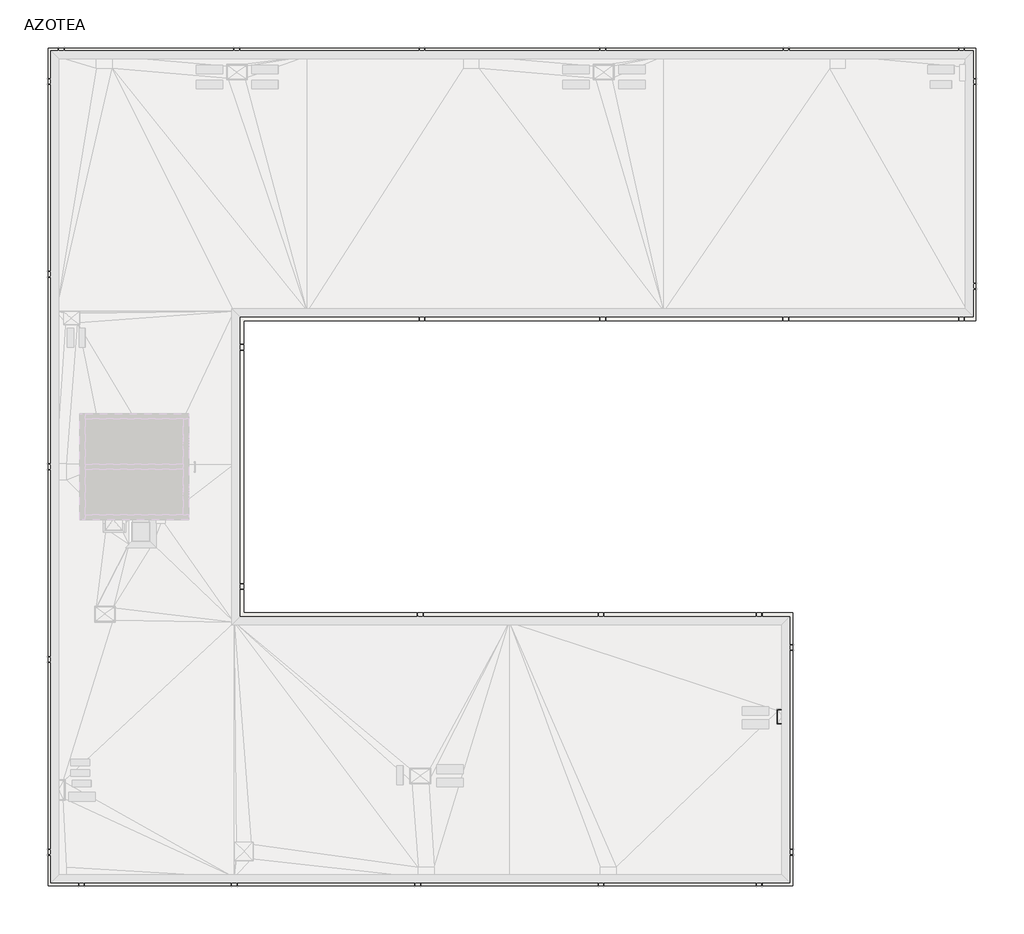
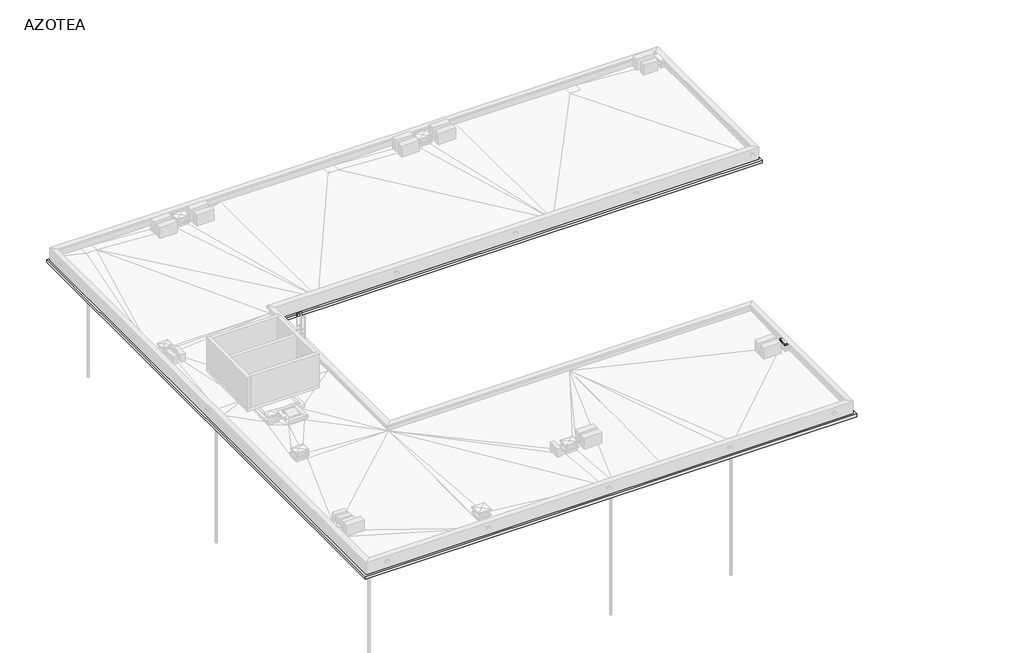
# One storey, part 2 of 6: 1 proxy, 1 slab.
"""IFC4 building model written with IfcOpenShell, lengths in millimetres."""

from ifc_helpers import new_model, si_unit, frame, origin, place, context, project, spatial, polyline, circle_curve, faceted_brep, element, save
from ifc_brep_helpers import plane_surface, revolved_surface, advanced_brep

model = new_model("IFC4")

# Units and contexts
model_context = context("Model", 3, world=origin())
ifc_project = project(units=[si_unit("LENGTHUNIT", "METRE", prefix="MILLI")], contexts=[model_context])

# Site, building, storey
site = spatial("IfcSite", under=ifc_project)
building = spatial("IfcBuilding", under=site)
storey = spatial("IfcBuildingStorey", under=building, Name="AZOTEA", Elevation=6570.0)

# Proxy
placement = place(None, origin())
element("IfcBuildingElementProxy", 1, Name="Goterón", ObjectType="Goterón", at=placement, inside=storey, context=model_context, shape_type="Brep", body=[
    faceted_brep([(30688.7173693, 6830.2304035, 7280.0), (30688.7173693, 6820.2304035, 7280.0), (30688.7173693, 6820.2304035, 7210.0), (30688.7173693, 6820.2304035, 7200.0), (30688.7173693, 6830.2304035, 7200.0), (30526.2173693, 6830.2304035, 7280.0), (30536.2173693, 6820.2304035, 7280.0), (30536.2173693, 6820.2304035, 7210.0), (30536.2173693, 6820.2304035, 7200.0), (30526.2173693, 6830.2304035, 7200.0), (30526.2173693, 6310.2304035, 7280.0), (30536.2173693, 6320.2304035, 7280.0), (30536.2173693, 6320.2304035, 7210.0), (30536.2173693, 6320.2304035, 7200.0), (30526.2173693, 6310.2304035, 7200.0), (30688.7173693, 6320.2304035, 7280.0), (30688.7173693, 6310.2304035, 7280.0), (30688.7173693, 6310.2304035, 7200.0), (30688.7173693, 6320.2304035, 7200.0), (30688.7173693, 6320.2304035, 7210.0)], [[[0, 1, 2, 3, 4]], [[1, 0, 5, 6]], [[1, 6, 7, 8, 3, 2]], [[4, 3, 8, 9]], [[0, 4, 9, 5]], [[6, 5, 10, 11]], [[6, 11, 12, 13, 8, 7]], [[9, 8, 13, 14]], [[5, 9, 14, 10]], [[15, 16, 17, 18, 19]], [[11, 10, 16, 15]], [[11, 15, 19, 18, 13, 12]], [[14, 13, 18, 17]], [[10, 14, 17, 16]]]),
])

# Slab
element("IfcSlab", 2, ObjectType="LOSA-INT-HA-16cm-PET", at=placement, inside=storey, context=model_context, shape_type="SolidModel", body=[
    faceted_brep([(3078.7173694, 31730.2304035, 6410.0), (37998.7173693, 31730.2304035, 6410.0), (37998.7173693, 21470.2304035, 6410.0), (10438.7173687, 21470.2304035, 6410.0), (10438.7173687, 10470.2304035, 6410.0), (31098.7173693, 10470.2304035, 6410.0), (31098.7173693, 210.2304035, 6410.0), (3078.7173694, 210.2304035, 6410.0), (37888.7173693, 31620.2304035, 6410.0), (3188.7173693, 31620.2304035, 6410.0), (3188.7173693, 320.2304035, 6410.0), (30988.7173693, 320.2304035, 6410.0), (30988.7173693, 10320.2304035, 6410.0), (10288.7173693, 10320.2304035, 6410.0), (10288.7173693, 21620.2304035, 6410.0), (37888.7173693, 21620.2304035, 6410.0), (37998.7173693, 31730.2304035, 6570.0), (3078.7173694, 31730.2304035, 6570.0), (3078.7173694, 210.2304035, 6570.0), (31098.7173693, 210.2304035, 6570.0), (31098.7173693, 10470.2304035, 6570.0), (10438.7173687, 10470.2304035, 6570.0), (10438.7173687, 21470.2304035, 6570.0), (37998.7173693, 21470.2304035, 6570.0), (3188.7173693, 31620.2304035, 6570.0), (37888.7173693, 31620.2304035, 6570.0), (37888.7173693, 21620.2304035, 6570.0), (10288.7173693, 21620.2304035, 6570.0), (10288.7173693, 10320.2304035, 6570.0), (30988.7173693, 10320.2304035, 6570.0), (30988.7173693, 320.2304035, 6570.0), (3188.7173693, 320.2304035, 6570.0)], [[[0, 1, 2, 3, 4, 5, 6, 7], [8, 9, 10, 11, 12, 13, 14, 15]], [[16, 17, 18, 19, 20, 21, 22, 23], [24, 25, 26, 27, 28, 29, 30, 31]], [[1, 0, 17, 16]], [[2, 1, 16, 23]], [[3, 2, 23, 22]], [[4, 3, 22, 21]], [[5, 4, 21, 20]], [[6, 5, 20, 19]], [[7, 6, 19, 18]], [[0, 7, 18, 17]], [[9, 8, 25, 24]], [[10, 9, 24, 31]], [[11, 10, 31, 30]], [[12, 11, 30, 29]], [[13, 12, 29, 28]], [[14, 13, 28, 27]], [[15, 14, 27, 26]], [[8, 15, 26, 25]]]),
    faceted_brep([(6124.4126343, 13970.2304035, 6410.0), (6124.4126343, 13050.2304035, 6410.0), (7024.4126343, 13050.2304035, 6410.0), (7024.4126343, 13970.2304035, 6410.0), (7168.7173693, 13970.2304035, 6410.0), (7168.7173693, 10320.2304035, 6410.0), (5538.7212045, 10320.2304035, 6410.0), (5538.7212045, 10660.2304035, 6410.0), (4898.7212045, 10660.2304035, 6410.0), (4898.7212045, 10320.2304035, 6410.0), (3388.7173693, 10320.2304035, 6410.0), (3388.7173693, 15870.2304035, 6410.0), (5268.7173693, 15870.2304035, 6410.0), (5268.7173693, 14170.2304035, 6410.0), (5268.7173694, 13970.2304035, 6410.0), (5268.7173694, 13620.2304035, 6410.0), (5838.7173694, 13620.2304035, 6410.0), (5838.7173694, 13970.2304035, 6410.0), (6124.4126343, 13050.2304035, 6570.0), (6124.4126343, 13970.2304035, 6570.0), (5838.7173694, 13970.2304035, 6570.0), (5838.7173694, 13620.2304035, 6570.0), (5268.7173694, 13620.2304035, 6570.0), (5268.7173694, 13970.2304035, 6570.0), (5268.7173693, 15870.2304035, 6570.0), (3388.7173693, 15870.2304035, 6570.0), (3388.7173693, 10320.2304035, 6570.0), (4898.7212045, 10320.2304035, 6570.0), (4898.7212045, 10660.2304035, 6570.0), (5538.7212045, 10660.2304035, 6570.0), (5538.7212045, 10320.2304035, 6570.0), (7168.7173693, 10320.2304035, 6570.0), (7168.7173693, 13970.2304035, 6570.0), (7024.4126343, 13970.2304035, 6570.0), (7024.4126343, 13050.2304035, 6570.0)], [[[0, 1, 2, 3, 4, 5, 6, 7, 8, 9, 10, 11, 12, 13, 14, 15, 16, 17]], [[18, 19, 20, 21, 22, 23, 24, 25, 26, 27, 28, 29, 30, 31, 32, 33, 34]], [[1, 0, 19, 18]], [[2, 1, 18, 34]], [[3, 2, 34, 33]], [[4, 3, 33, 32]], [[5, 4, 32, 31]], [[10, 9, 27, 26]], [[11, 10, 26, 25]], [[12, 11, 25, 24]], [[14, 13, 12, 24, 23]], [[0, 17, 20, 19]], [[15, 14, 23, 22]], [[16, 15, 22, 21]], [[17, 16, 21, 20]], [[6, 5, 31, 30]], [[7, 6, 30, 29]], [[8, 7, 29, 28]], [[9, 8, 28, 27]]]),
    faceted_brep([(10508.7173694, 31040.2304035, 6410.0), (10288.7173694, 31040.2304035, 6410.0), (10288.7173694, 31420.2304035, 6410.0), (10288.7173694, 31430.2304035, 6410.0), (16988.7173694, 31430.2304035, 6410.0), (16988.7173694, 31420.2304035, 6410.0), (16988.7173694, 24920.2304035, 6410.0), (10288.7173694, 24920.2304035, 6410.0), (10288.7173694, 30600.2304035, 6410.0), (10508.7173694, 30600.2304035, 6410.0), (10288.7173694, 31040.2304035, 6570.0), (10508.7173694, 31040.2304035, 6570.0), (10508.7173694, 30600.2304035, 6570.0), (10288.7173694, 30600.2304035, 6570.0), (10288.7173694, 24920.2304035, 6570.0), (16988.7173694, 24920.2304035, 6570.0), (16988.7173694, 31420.2304035, 6570.0), (16988.7173694, 31430.2304035, 6570.0), (10288.7173694, 31430.2304035, 6570.0), (10288.7173694, 31420.2304035, 6570.0)], [[[0, 1, 2, 3, 4, 5, 6, 7, 8, 9]], [[10, 11, 12, 13, 14, 15, 16, 17, 18, 19]], [[1, 0, 11, 10]], [[9, 8, 13, 12]], [[0, 9, 12, 11]], [[3, 2, 1, 10, 19, 18]], [[4, 3, 18, 17]], [[6, 5, 4, 17, 16, 15]], [[7, 6, 15, 14]], [[8, 7, 14, 13]]]),
    advanced_brep(
    [(10088.7173694, 31040.2304035, 6410.0), (9868.7173694, 31040.2304035, 6410.0), (9868.7173694, 30600.2304035, 6410.0), (10088.7173693, 30600.2304035, 6410.0), (10088.7173693, 24920.2304035, 6410.0), (3388.7173693, 24920.2304035, 6410.0), (3388.7173693, 31420.2304035, 6410.0), (3388.7173693, 31430.2304035, 6410.0), (10088.7173694, 31430.2304035, 6410.0), (10088.7173694, 31420.2304035, 6410.0), (5138.7173693, 31270.2304035, 6410.0), (5238.7173693, 31270.2304035, 6410.0), (9868.7173694, 31040.2304035, 6570.0), (10088.7173694, 31040.2304035, 6570.0), (10088.7173694, 31420.2304035, 6570.0), (10088.7173694, 31430.2304035, 6570.0), (3388.7173693, 31430.2304035, 6570.0), (3388.7173693, 31420.2304035, 6570.0), (3388.7173693, 24920.2304035, 6570.0), (10088.7173693, 24920.2304035, 6570.0), (10088.7173693, 30600.2304035, 6570.0), (9868.7173694, 30600.2304035, 6570.0), (5238.7173693, 31270.2304035, 6570.0), (5138.7173693, 31270.2304035, 6570.0)],
    [
        (0, 1),
        (1, 2),
        (2, 3),
        (3, 4),
        (4, 5),
        (5, 6),
        (6, 7),
        (7, 8),
        (8, 9),
        (9, 0),
        (10, 11, circle_curve(frame((5188.7173693, 31270.2304035, 6410.0), z_axis=(0.0, 0.0, 1.0), x_axis=(1.0, 0.0, 0.0)), 50.0)),
        (11, 10, circle_curve(frame((5188.7173693, 31270.2304035, 6410.0), z_axis=(0.0, 0.0, 1.0), x_axis=(1.0, 0.0, 0.0)), 50.0)),
        (12, 13),
        (13, 14),
        (14, 15),
        (15, 16),
        (16, 17),
        (17, 18),
        (18, 19),
        (19, 20),
        (20, 21),
        (21, 12),
        (22, 23, circle_curve(frame((5188.7173693, 31270.2304035, 6570.0), z_axis=(0.0, 0.0, -1.0), x_axis=(1.0, 0.0, 0.0)), 50.0)),
        (23, 22, circle_curve(frame((5188.7173693, 31270.2304035, 6570.0), z_axis=(0.0, 0.0, -1.0), x_axis=(1.0, 0.0, 0.0)), 50.0)),
        (0, 13),
        (12, 1),
        (21, 2),
        (20, 3),
        (10, 23),
        (22, 11),
        (19, 4),
        (18, 5),
        (16, 7),
        (15, 8),
    ],
    [
        plane_surface(frame((37998.7173693, 31730.2304035, 6410.0), z_axis=(0.0, 0.0, -1.0), x_axis=(1.0, 0.0, 0.0))),
        plane_surface(frame((37998.7173693, 31730.2304035, 6570.0), z_axis=(0.0, 0.0, 1.0), x_axis=(-1.0, 0.0, 0.0))),
        plane_surface(frame((10088.7173694, 31040.2304035, 6410.0), z_axis=(0.0, -1.0, 0.0), x_axis=(0.0, 0.0, 1.0))),
        plane_surface(frame((9868.7173694, 31040.2304035, 6410.0), z_axis=(1.0, 0.0, 0.0), x_axis=(0.0, 0.0, 1.0))),
        plane_surface(frame((9868.7173694, 30600.2304035, 6410.0), z_axis=(0.0, 1.0, 0.0), x_axis=(0.0, 0.0, 1.0))),
        revolved_surface(polyline([(5238.7173693, 31270.2304035, 6570.0), (5238.7173693, 31270.2304035, 6410.0)]), (5188.7173693, 31270.2304035, 6570.0), (0.0, 0.0, 1.0)),
        plane_surface(frame((10088.7173693, 30600.2304035, 6410.0), z_axis=(1.0, 0.0, 0.0), x_axis=(0.0, 0.0, 1.0))),
        plane_surface(frame((10088.7173693, 24920.2304035, 6410.0), z_axis=(0.0, -1.0, 0.0), x_axis=(0.0, 0.0, 1.0))),
        plane_surface(frame((3388.7173693, 24920.2304035, 6410.0), z_axis=(-1.0, 0.0, 0.0), x_axis=(0.0, 0.0, 1.0))),
        plane_surface(frame((3388.7173693, 31430.2304035, 6410.0), z_axis=(0.0, 1.0, 0.0), x_axis=(0.0, 0.0, 1.0))),
        plane_surface(frame((10088.7173694, 31430.2304035, 6410.0), z_axis=(1.0, 0.0, 0.0), x_axis=(0.0, 0.0, 1.0))),
    ],
    [
        (0, [[1, 2, 3, 4, 5, 6, 7, 8, 9, 10], [11, 12]]),
        (1, [[13, 14, 15, 16, 17, 18, 19, 20, 21, 22], [23, 24]]),
        (2, [[-1, 25, -13, 26]]),
        (3, [[-2, -26, -22, 27]]),
        (4, [[-3, -27, -21, 28]]),
        (5, [[-11, 29, -23, 30]]),
        (5, [[-12, -30, -24, -29]]),
        (6, [[-4, -28, -20, 31]]),
        (7, [[-5, -31, -19, 32]]),
        (8, [[-7, -6, -32, -18, -17, 33]]),
        (9, [[-8, -33, -16, 34]]),
        (10, [[-10, -9, -34, -15, -14, -25]]),
    ],
),
    faceted_brep([(3388.7173693, 24720.2304035, 6410.0), (37688.7173693, 24720.2304035, 6410.0), (37688.7173693, 21820.2304035, 6410.0), (10088.7173693, 21820.2304035, 6410.0), (10088.7173693, 10120.2304035, 6410.0), (30788.7173693, 10120.2304035, 6410.0), (30788.7173693, 7220.2304035, 6410.0), (3388.7173693, 7220.2304035, 6410.0), (3388.7173693, 10120.2304035, 6410.0), (7368.7173693, 10120.2304035, 6410.0), (7368.7173693, 21820.2304035, 6410.0), (3388.7173693, 21820.2304035, 6410.0), (37688.7173693, 24720.2304035, 6570.0), (30988.7173694, 24720.2304035, 6570.0), (30788.7173694, 24720.2304035, 6570.0), (24088.7173694, 24720.2304035, 6570.0), (23888.7173694, 24720.2304035, 6570.0), (17188.7173694, 24720.2304035, 6570.0), (16988.7173694, 24720.2304035, 6570.0), (10288.7173694, 24720.2304035, 6570.0), (10088.7173694, 24720.2304035, 6570.0), (3388.7173693, 24720.2304035, 6570.0), (3388.7173693, 21820.2304035, 6570.0), (7168.7173693, 21820.2304035, 6570.0), (7368.7173693, 21820.2304035, 6570.0), (7368.7173693, 16070.2304035, 6570.0), (7368.7173693, 13970.2304035, 6570.0), (7368.7173693, 10120.2304035, 6570.0), (7168.7173693, 10120.2304035, 6570.0), (3388.7173693, 10120.2304035, 6570.0), (3388.7173693, 7220.2304035, 6570.0), (10088.7173694, 7220.2304035, 6570.0), (10288.7173694, 7220.2304035, 6570.0), (30788.7173693, 7220.2304035, 6570.0), (30788.7173693, 10120.2304035, 6570.0), (10088.7173693, 10120.2304035, 6570.0), (10088.7173693, 21820.2304035, 6570.0), (37688.7173693, 21820.2304035, 6570.0)], [[[0, 1, 2, 3, 4, 5, 6, 7, 8, 9, 10, 11]], [[12, 13, 14, 15, 16, 17, 18, 19, 20, 21, 22, 23, 24, 25, 26, 27, 28, 29, 30, 31, 32, 33, 34, 35, 36, 37]], [[1, 0, 21, 20, 19, 18, 17, 16, 15, 14, 13, 12]], [[2, 1, 12, 37]], [[3, 2, 37, 36]], [[4, 3, 36, 35]], [[5, 4, 35, 34]], [[6, 5, 34, 33]], [[7, 6, 33, 32, 31, 30]], [[8, 7, 30, 29]], [[9, 8, 29, 28, 27]], [[10, 9, 27, 26, 25, 24]], [[11, 10, 24, 23, 22]], [[0, 11, 22, 21]]]),
    advanced_brep(
    [(7168.7173693, 21620.2304035, 6410.0), (7168.7173693, 16070.2304035, 6410.0), (3388.7173693, 16070.2304035, 6410.0), (3388.7173693, 21620.2304035, 6410.0), (3748.7173693, 21620.2304035, 6410.0), (3748.7173693, 21400.2304035, 6410.0), (4188.7173693, 21400.2304035, 6410.0), (4188.7173693, 21620.2304035, 6410.0), (3488.7144133, 16130.2304035, 6410.0), (3588.7144133, 16130.2304035, 6410.0), (7168.7173693, 16070.2304035, 6570.0), (7168.7173693, 21620.2304035, 6570.0), (4188.7173693, 21620.2304035, 6570.0), (4188.7173693, 21400.2304035, 6570.0), (3748.7173693, 21400.2304035, 6570.0), (3748.7173693, 21620.2304035, 6570.0), (3388.7173693, 21620.2304035, 6570.0), (3388.7173693, 16070.2304035, 6570.0), (5268.7173693, 16070.2304035, 6570.0), (3588.7144133, 16130.2304035, 6570.0), (3488.7144133, 16130.2304035, 6570.0)],
    [
        (0, 1),
        (1, 2),
        (2, 3),
        (3, 4),
        (4, 5),
        (5, 6),
        (6, 7),
        (7, 0),
        (8, 9, circle_curve(frame((3538.7144133, 16130.2304035, 6410.0), z_axis=(0.0, 0.0, 1.0), x_axis=(1.0, 0.0, 0.0)), 50.0)),
        (9, 8, circle_curve(frame((3538.7144133, 16130.2304035, 6410.0), z_axis=(0.0, 0.0, 1.0), x_axis=(1.0, 0.0, 0.0)), 50.0)),
        (10, 11),
        (11, 12),
        (12, 13),
        (13, 14),
        (14, 15),
        (15, 16),
        (16, 17),
        (17, 18),
        (18, 10),
        (19, 20, circle_curve(frame((3538.7144133, 16130.2304035, 6570.0), z_axis=(0.0, 0.0, -1.0), x_axis=(1.0, 0.0, 0.0)), 50.0)),
        (20, 19, circle_curve(frame((3538.7144133, 16130.2304035, 6570.0), z_axis=(0.0, 0.0, -1.0), x_axis=(1.0, 0.0, 0.0)), 50.0)),
        (8, 20),
        (19, 9),
        (11, 0),
        (7, 12),
        (3, 16),
        (15, 4),
        (10, 1),
        (17, 2),
        (14, 5),
        (13, 6),
    ],
    [
        plane_surface(frame((37998.7173693, 31730.2304035, 6410.0), z_axis=(0.0, 0.0, -1.0), x_axis=(1.0, 0.0, 0.0))),
        plane_surface(frame((37998.7173693, 31730.2304035, 6570.0), z_axis=(0.0, 0.0, 1.0), x_axis=(-1.0, 0.0, 0.0))),
        revolved_surface(polyline([(3588.7144133, 16130.2304035, 6570.0), (3588.7144133, 16130.2304035, 6410.0)]), (3538.7144133, 16130.2304035, 6570.0), (0.0, 0.0, 1.0)),
        plane_surface(frame((3388.7173693, 21620.2304035, 6410.0), z_axis=(0.0, 1.0, 0.0), x_axis=(0.0, 0.0, 1.0))),
        plane_surface(frame((7168.7173693, 21620.2304035, 6410.0), z_axis=(1.0, 0.0, 0.0), x_axis=(0.0, 0.0, 1.0))),
        plane_surface(frame((7168.7173693, 16070.2304035, 6410.0), z_axis=(0.0, -1.0, 0.0), x_axis=(0.0, 0.0, 1.0))),
        plane_surface(frame((3388.7173693, 16070.2304035, 6410.0), z_axis=(-1.0, 0.0, 0.0), x_axis=(0.0, 0.0, 1.0))),
        plane_surface(frame((3748.7173693, 21740.2304035, 6570.0), z_axis=(1.0, 0.0, 0.0), x_axis=(0.0, 0.0, -1.0))),
        plane_surface(frame((3748.7173693, 21400.2304035, 6570.0), z_axis=(0.0, 1.0, 0.0), x_axis=(0.0, 0.0, -1.0))),
        plane_surface(frame((4188.7173693, 21400.2304035, 6570.0), z_axis=(-1.0, 0.0, 0.0), x_axis=(0.0, 0.0, -1.0))),
    ],
    [
        (0, [[1, 2, 3, 4, 5, 6, 7, 8], [9, 10]]),
        (1, [[11, 12, 13, 14, 15, 16, 17, 18, 19], [20, 21]]),
        (2, [[-9, 22, -20, 23]]),
        (2, [[-10, -23, -21, -22]]),
        (3, [[24, -8, 25, -12]]),
        (3, [[26, -16, 27, -4]]),
        (4, [[-1, -24, -11, 28]]),
        (5, [[-2, -28, -19, -18, 29]]),
        (6, [[-3, -29, -17, -26]]),
        (7, [[30, -5, -27, -15]]),
        (8, [[-30, -14, 31, -6]]),
        (9, [[-31, -13, -25, -7]]),
    ],
),
    faceted_brep([(23888.7173694, 7020.2304035, 6410.0), (23888.7173694, 520.2304035, 6410.0), (17188.7173694, 520.2304035, 6410.0), (17188.7173694, 4120.2304035, 6410.0), (17408.7173694, 4120.2304035, 6410.0), (17408.7173694, 4560.2304035, 6410.0), (17188.7173694, 4560.2304035, 6410.0), (17188.7173694, 7020.2304035, 6410.0), (23888.7173694, 520.2304035, 6570.0), (23888.7173694, 7020.2304035, 6570.0), (17188.7173694, 7020.2304035, 6570.0), (17188.7173694, 4560.2304035, 6570.0), (17408.7173694, 4560.2304035, 6570.0), (17408.7173694, 4120.2304035, 6570.0), (17188.7173694, 4120.2304035, 6570.0), (17188.7173694, 520.2304035, 6570.0)], [[[0, 1, 2, 3, 4, 5, 6, 7]], [[8, 9, 10, 11, 12, 13, 14, 15]], [[1, 0, 9, 8]], [[2, 1, 8, 15]], [[3, 2, 15, 14]], [[0, 7, 10, 9]], [[4, 3, 14, 13]], [[5, 4, 13, 12]], [[6, 5, 12, 11]], [[7, 6, 11, 10]]]),
    advanced_brep(
    [(16988.7173694, 7020.2304035, 6410.0), (16988.7173694, 4560.2304035, 6410.0), (16768.7173694, 4560.2304035, 6410.0), (16768.7173694, 4120.2304035, 6410.0), (16988.7173694, 4120.2304035, 6410.0), (16988.7173694, 520.2304035, 6410.0), (10288.7173694, 520.2304035, 6410.0), (10288.7173694, 1302.8495567, 6410.0), (10288.7173694, 7020.2304035, 6410.0), (10451.2173694, 1645.2304035, 6410.0), (10451.2173694, 1345.2304035, 6410.0), (10601.2173694, 1495.2304035, 6410.0), (16988.7173694, 4560.2304035, 6570.0), (16988.7173694, 7020.2304035, 6570.0), (10288.7173694, 7020.2304035, 6570.0), (10288.7173694, 1302.8495567, 6570.0), (10288.7173694, 520.2304035, 6570.0), (16988.7173694, 520.2304035, 6570.0), (16988.7173694, 4120.2304035, 6570.0), (16768.7173694, 4120.2304035, 6570.0), (16768.7173694, 4560.2304035, 6570.0), (10451.2173694, 1345.2304035, 6570.0), (10451.2173694, 1645.2304035, 6570.0), (10601.2173694, 1495.2304035, 6570.0)],
    [
        (0, 1),
        (1, 2),
        (2, 3),
        (3, 4),
        (4, 5),
        (5, 6),
        (6, 7),
        (7, 8),
        (8, 0),
        (9, 10, circle_curve(frame((10451.2173694, 1495.2304035, 6410.0), z_axis=(0.0, 0.0, 1.0), x_axis=(1.0, 0.0, 0.0)), 150.0)),
        (10, 11, circle_curve(frame((10451.2173694, 1495.2304035, 6410.0), z_axis=(0.0, 0.0, 1.0), x_axis=(1.0, 0.0, 0.0)), 150.0)),
        (11, 9, circle_curve(frame((10451.2173694, 1495.2304035, 6410.0), z_axis=(0.0, 0.0, 1.0), x_axis=(1.0, 0.0, 0.0)), 150.0)),
        (12, 13),
        (13, 14),
        (14, 15),
        (15, 16),
        (16, 17),
        (17, 18),
        (18, 19),
        (19, 20),
        (20, 12),
        (21, 22, circle_curve(frame((10451.2173694, 1495.2304035, 6570.0), z_axis=(0.0, 0.0, -1.0), x_axis=(1.0, 0.0, 0.0)), 150.0)),
        (22, 23, circle_curve(frame((10451.2173694, 1495.2304035, 6570.0), z_axis=(0.0, 0.0, -1.0), x_axis=(1.0, 0.0, 0.0)), 150.0)),
        (23, 21, circle_curve(frame((10451.2173694, 1495.2304035, 6570.0), z_axis=(0.0, 0.0, -1.0), x_axis=(1.0, 0.0, 0.0)), 150.0)),
        (0, 13),
        (12, 1),
        (5, 17),
        (16, 6),
        (15, 7),
        (8, 14),
        (20, 2),
        (19, 3),
        (18, 4),
        (9, 22),
        (21, 10),
        (23, 11),
    ],
    [
        plane_surface(frame((37998.7173693, 31730.2304035, 6410.0), z_axis=(0.0, 0.0, -1.0), x_axis=(1.0, 0.0, 0.0))),
        plane_surface(frame((37998.7173693, 31730.2304035, 6570.0), z_axis=(0.0, 0.0, 1.0), x_axis=(-1.0, 0.0, 0.0))),
        plane_surface(frame((16988.7173694, 7020.2304035, 6410.0), z_axis=(1.0, 0.0, 0.0), x_axis=(0.0, 0.0, 1.0))),
        plane_surface(frame((16988.7173694, 520.2304035, 6410.0), z_axis=(0.0, -1.0, 0.0), x_axis=(0.0, 0.0, 1.0))),
        plane_surface(frame((10288.7173694, 520.2304035, 6410.0), z_axis=(-1.0, 0.0, 0.0), x_axis=(0.0, 0.0, 1.0))),
        plane_surface(frame((10288.7173694, 7020.2304035, 6410.0), z_axis=(0.0, 1.0, 0.0), x_axis=(0.0, 0.0, 1.0))),
        plane_surface(frame((16988.7173694, 4560.2304035, 6410.0), z_axis=(0.0, -1.0, 0.0), x_axis=(0.0, 0.0, 1.0))),
        plane_surface(frame((16768.7173694, 4560.2304035, 6410.0), z_axis=(1.0, 0.0, 0.0), x_axis=(0.0, 0.0, 1.0))),
        plane_surface(frame((16768.7173694, 4120.2304035, 6410.0), z_axis=(0.0, 1.0, 0.0), x_axis=(0.0, 0.0, 1.0))),
        plane_surface(frame((16988.7173694, 4120.2304035, 6410.0), z_axis=(1.0, 0.0, 0.0), x_axis=(0.0, 0.0, 1.0))),
        plane_surface(frame((10288.7173694, 1302.8495567, 6410.0), z_axis=(-1.0, 0.0, 0.0), x_axis=(0.0, 0.0, 1.0))),
        revolved_surface(polyline([(10601.2173694, 1495.2304035, 6570.0), (10601.2173694, 1495.2304035, 6410.0)]), (10451.2173694, 1495.2304035, 6570.0), (0.0, 0.0, 1.0)),
    ],
    [
        (0, [[1, 2, 3, 4, 5, 6, 7, 8, 9], [10, 11, 12]]),
        (1, [[13, 14, 15, 16, 17, 18, 19, 20, 21], [22, 23, 24]]),
        (2, [[-1, 25, -13, 26]]),
        (3, [[-6, 27, -17, 28]]),
        (4, [[-7, -28, -16, 29]]),
        (5, [[-9, 30, -14, -25]]),
        (6, [[-2, -26, -21, 31]]),
        (7, [[-3, -31, -20, 32]]),
        (8, [[-4, -32, -19, 33]]),
        (9, [[-5, -33, -18, -27]]),
        (10, [[-8, -29, -15, -30]]),
        (11, [[-10, 34, -22, 35]]),
        (11, [[-11, -35, -24, 36]]),
        (11, [[-12, -36, -23, -34]]),
    ],
),
    advanced_brep(
    [(3388.7173693, 7020.2304035, 6410.0), (10088.7173694, 7020.2304035, 6410.0), (10088.7173694, 520.2304035, 6410.0), (3388.7173693, 520.2304035, 6410.0), (3388.7173693, 3611.2570664, 6410.0), (3538.7173693, 3611.2570664, 6410.0), (3538.7173693, 4011.2570664, 6410.0), (3388.7173693, 4011.2570664, 6410.0), (3488.7173693, 670.2304035, 6410.0), (3588.7173693, 670.2304035, 6410.0), (10088.7173694, 7020.2304035, 6570.0), (3388.7173693, 7020.2304035, 6570.0), (3388.7173693, 4131.2570664, 6570.0), (3388.7173693, 4011.2570664, 6570.0), (3538.7173693, 4011.2570664, 6570.0), (3538.7173693, 3611.2570664, 6570.0), (3388.7173693, 3611.2570664, 6570.0), (3388.7173693, 3491.2570664, 6570.0), (3388.7173693, 520.2304035, 6570.0), (10088.7173694, 520.2304035, 6570.0), (3588.7173693, 670.2304035, 6570.0), (3488.7173693, 670.2304035, 6570.0)],
    [
        (0, 1),
        (1, 2),
        (2, 3),
        (3, 4),
        (4, 5),
        (5, 6),
        (6, 7),
        (7, 0),
        (8, 9, circle_curve(frame((3538.7173693, 670.2304035, 6410.0), z_axis=(0.0, 0.0, 1.0), x_axis=(1.0, 0.0, 0.0)), 50.0)),
        (9, 8, circle_curve(frame((3538.7173693, 670.2304035, 6410.0), z_axis=(0.0, 0.0, 1.0), x_axis=(1.0, 0.0, 0.0)), 50.0)),
        (10, 11),
        (11, 12),
        (12, 13),
        (13, 14),
        (14, 15),
        (15, 16),
        (16, 17),
        (17, 18),
        (18, 19),
        (19, 10),
        (20, 21, circle_curve(frame((3538.7173693, 670.2304035, 6570.0), z_axis=(0.0, 0.0, -1.0), x_axis=(1.0, 0.0, 0.0)), 50.0)),
        (21, 20, circle_curve(frame((3538.7173693, 670.2304035, 6570.0), z_axis=(0.0, 0.0, -1.0), x_axis=(1.0, 0.0, 0.0)), 50.0)),
        (8, 21),
        (20, 9),
        (0, 11),
        (10, 1),
        (19, 2),
        (18, 3),
        (16, 4),
        (7, 13),
        (15, 5),
        (14, 6),
    ],
    [
        plane_surface(frame((37998.7173693, 31730.2304035, 6410.0), z_axis=(0.0, 0.0, -1.0), x_axis=(1.0, 0.0, 0.0))),
        plane_surface(frame((37998.7173693, 31730.2304035, 6570.0), z_axis=(0.0, 0.0, 1.0), x_axis=(-1.0, 0.0, 0.0))),
        revolved_surface(polyline([(3588.7173693, 670.2304035, 6570.0), (3588.7173693, 670.2304035, 6410.0)]), (3538.7173693, 670.2304035, 6570.0), (0.0, 0.0, 1.0)),
        plane_surface(frame((3388.7173693, 7020.2304035, 6410.0), z_axis=(0.0, 1.0, 0.0), x_axis=(0.0, 0.0, 1.0))),
        plane_surface(frame((10088.7173694, 7020.2304035, 6410.0), z_axis=(1.0, 0.0, 0.0), x_axis=(0.0, 0.0, 1.0))),
        plane_surface(frame((10088.7173694, 520.2304035, 6410.0), z_axis=(0.0, -1.0, 0.0), x_axis=(0.0, 0.0, 1.0))),
        plane_surface(frame((3388.7173693, 520.2304035, 6410.0), z_axis=(-1.0, 0.0, 0.0), x_axis=(0.0, 0.0, 1.0))),
        plane_surface(frame((3388.7173693, 4011.2570664, 6410.0), z_axis=(-1.0, 0.0, 0.0), x_axis=(0.0, 0.0, 1.0))),
        plane_surface(frame((3388.7173693, 3611.2570664, 6410.0), z_axis=(0.0, 1.0, 0.0), x_axis=(0.0, 0.0, 1.0))),
        plane_surface(frame((3538.7173693, 3611.2570664, 6410.0), z_axis=(-1.0, 0.0, 0.0), x_axis=(0.0, 0.0, 1.0))),
        plane_surface(frame((3538.7173693, 4011.2570664, 6410.0), z_axis=(0.0, -1.0, 0.0), x_axis=(0.0, 0.0, 1.0))),
    ],
    [
        (0, [[1, 2, 3, 4, 5, 6, 7, 8], [9, 10]]),
        (1, [[11, 12, 13, 14, 15, 16, 17, 18, 19, 20], [21, 22]]),
        (2, [[-9, 23, -21, 24]]),
        (2, [[-10, -24, -22, -23]]),
        (3, [[-1, 25, -11, 26]]),
        (4, [[-2, -26, -20, 27]]),
        (5, [[-3, -27, -19, 28]]),
        (6, [[-4, -28, -18, -17, 29]]),
        (7, [[-8, 30, -13, -12, -25]]),
        (8, [[-5, -29, -16, 31]]),
        (9, [[-6, -31, -15, 32]]),
        (10, [[-7, -32, -14, -30]]),
    ],
),
    advanced_brep(
    [(37688.7173693, 31430.2304035, 6410.0), (37688.7173693, 31420.2304035, 6410.0), (37688.7173693, 30920.2304035, 6410.0), (37571.0173693, 30920.2304035, 6410.0), (37471.0173693, 30920.2304035, 6410.0), (37471.0173693, 30580.2304035, 6410.0), (37688.7173693, 30580.2304035, 6410.0), (37688.7173693, 24920.2304035, 6410.0), (30988.7173694, 24920.2304035, 6410.0), (30988.7173694, 31420.2304035, 6410.0), (30988.7173694, 31430.2304035, 6410.0), (32738.7173693, 31270.2304035, 6410.0), (32838.7173693, 31270.2304035, 6410.0), (37688.7173693, 30920.2304035, 6570.0), (37688.7173693, 31020.2304035, 6570.0), (37688.7173693, 31420.2304035, 6570.0), (37688.7173693, 31430.2304035, 6570.0), (30988.7173694, 31430.2304035, 6570.0), (30988.7173694, 31420.2304035, 6570.0), (30988.7173694, 24920.2304035, 6570.0), (37688.7173693, 24920.2304035, 6570.0), (37688.7173693, 30580.2304035, 6570.0), (37471.0173693, 30580.2304035, 6570.0), (37471.0173693, 30920.2304035, 6570.0), (37571.0173693, 30920.2304035, 6570.0), (32838.7173693, 31270.2304035, 6570.0), (32738.7173693, 31270.2304035, 6570.0)],
    [
        (0, 1),
        (1, 2),
        (2, 3),
        (3, 4),
        (4, 5),
        (5, 6),
        (6, 7),
        (7, 8),
        (8, 9),
        (9, 10),
        (10, 0),
        (11, 12, circle_curve(frame((32788.7173693, 31270.2304035, 6410.0), z_axis=(0.0, 0.0, 1.0), x_axis=(1.0, 0.0, 0.0)), 50.0)),
        (12, 11, circle_curve(frame((32788.7173693, 31270.2304035, 6410.0), z_axis=(0.0, 0.0, 1.0), x_axis=(1.0, 0.0, 0.0)), 50.0)),
        (13, 14),
        (14, 15),
        (15, 16),
        (16, 17),
        (17, 18),
        (18, 19),
        (19, 20),
        (20, 21),
        (21, 22),
        (22, 23),
        (23, 24),
        (24, 13),
        (25, 26, circle_curve(frame((32788.7173693, 31270.2304035, 6570.0), z_axis=(0.0, 0.0, -1.0), x_axis=(1.0, 0.0, 0.0)), 50.0)),
        (26, 25, circle_curve(frame((32788.7173693, 31270.2304035, 6570.0), z_axis=(0.0, 0.0, -1.0), x_axis=(1.0, 0.0, 0.0)), 50.0)),
        (11, 26),
        (25, 12),
        (0, 16),
        (13, 2),
        (7, 20),
        (19, 8),
        (17, 10),
        (23, 4),
        (22, 5),
        (21, 6),
    ],
    [
        plane_surface(frame((37998.7173693, 31730.2304035, 6410.0), z_axis=(0.0, 0.0, -1.0), x_axis=(1.0, 0.0, 0.0))),
        plane_surface(frame((37998.7173693, 31730.2304035, 6570.0), z_axis=(0.0, 0.0, 1.0), x_axis=(-1.0, 0.0, 0.0))),
        revolved_surface(polyline([(32838.7173693, 31270.2304035, 6570.0), (32838.7173693, 31270.2304035, 6410.0)]), (32788.7173693, 31270.2304035, 6570.0), (0.0, 0.0, 1.0)),
        plane_surface(frame((37688.7173693, 31430.2304035, 6410.0), z_axis=(1.0, 0.0, 0.0), x_axis=(0.0, 0.0, 1.0))),
        plane_surface(frame((37688.7173693, 24920.2304035, 6410.0), z_axis=(0.0, -1.0, 0.0), x_axis=(0.0, 0.0, 1.0))),
        plane_surface(frame((30988.7173694, 24920.2304035, 6410.0), z_axis=(-1.0, 0.0, 0.0), x_axis=(0.0, 0.0, 1.0))),
        plane_surface(frame((30988.7173694, 31430.2304035, 6410.0), z_axis=(0.0, 1.0, 0.0), x_axis=(0.0, 0.0, 1.0))),
        plane_surface(frame((37688.7173693, 30920.2304035, 6410.0), z_axis=(0.0, -1.0, 0.0), x_axis=(0.0, 0.0, 1.0))),
        plane_surface(frame((37471.0173693, 30920.2304035, 6410.0), z_axis=(1.0, 0.0, 0.0), x_axis=(0.0, 0.0, 1.0))),
        plane_surface(frame((37471.0173693, 30580.2304035, 6410.0), z_axis=(0.0, 1.0, 0.0), x_axis=(0.0, 0.0, 1.0))),
        plane_surface(frame((37688.7173693, 30580.2304035, 6410.0), z_axis=(1.0, 0.0, 0.0), x_axis=(0.0, 0.0, 1.0))),
    ],
    [
        (0, [[1, 2, 3, 4, 5, 6, 7, 8, 9, 10, 11], [12, 13]]),
        (1, [[14, 15, 16, 17, 18, 19, 20, 21, 22, 23, 24, 25], [26, 27]]),
        (2, [[-12, 28, -26, 29]]),
        (2, [[-13, -29, -27, -28]]),
        (3, [[-2, -1, 30, -16, -15, -14, 31]]),
        (4, [[-8, 32, -20, 33]]),
        (5, [[-10, -9, -33, -19, -18, 34]]),
        (6, [[-11, -34, -17, -30]]),
        (7, [[-4, -3, -31, -25, -24, 35]]),
        (8, [[-5, -35, -23, 36]]),
        (9, [[-6, -36, -22, 37]]),
        (10, [[-7, -37, -21, -32]]),
    ],
),
    faceted_brep([(30788.7173693, 7020.2304035, 6410.0), (30788.7173693, 6790.2304035, 6410.0), (30566.2173693, 6790.2304035, 6410.0), (30566.2173693, 6350.2304035, 6410.0), (30788.7173693, 6350.2304035, 6410.0), (30788.7173693, 520.2304035, 6410.0), (24088.7173694, 520.2304035, 6410.0), (24088.7173694, 7020.2304035, 6410.0), (30788.7173693, 6790.2304035, 6570.0), (30788.7173693, 7020.2304035, 6570.0), (24088.7173694, 7020.2304035, 6570.0), (24088.7173694, 520.2304035, 6570.0), (30788.7173693, 520.2304035, 6570.0), (30788.7173693, 6350.2304035, 6570.0), (30566.2173693, 6350.2304035, 6570.0), (30566.2173693, 6790.2304035, 6570.0)], [[[0, 1, 2, 3, 4, 5, 6, 7]], [[8, 9, 10, 11, 12, 13, 14, 15]], [[1, 0, 9, 8]], [[6, 5, 12, 11]], [[7, 6, 11, 10]], [[0, 7, 10, 9]], [[5, 4, 13, 12]], [[2, 1, 8, 15]], [[3, 2, 15, 14]], [[4, 3, 14, 13]]]),
    advanced_brep(
    [(23888.7173694, 31040.2304035, 6410.0), (23668.7173693, 31040.2304035, 6410.0), (23668.7173693, 30600.2304035, 6410.0), (23888.7173694, 30600.2304035, 6410.0), (23888.7173694, 24920.2304035, 6410.0), (17188.7173694, 24920.2304035, 6410.0), (17188.7173694, 31420.2304035, 6410.0), (17188.7173694, 31430.2304035, 6410.0), (23888.7173694, 31430.2304035, 6410.0), (23888.7173694, 31420.2304035, 6410.0), (18938.7173693, 31270.2304035, 6410.0), (19038.7173693, 31270.2304035, 6410.0), (23668.7173693, 31040.2304035, 6570.0), (23888.7173694, 31040.2304035, 6570.0), (23888.7173694, 31420.2304035, 6570.0), (23888.7173694, 31430.2304035, 6570.0), (17188.7173694, 31430.2304035, 6570.0), (17188.7173694, 31420.2304035, 6570.0), (17188.7173694, 24920.2304035, 6570.0), (23888.7173694, 24920.2304035, 6570.0), (23888.7173694, 30600.2304035, 6570.0), (23668.7173693, 30600.2304035, 6570.0), (19038.7173693, 31270.2304035, 6570.0), (18938.7173693, 31270.2304035, 6570.0)],
    [
        (0, 1),
        (1, 2),
        (2, 3),
        (3, 4),
        (4, 5),
        (5, 6),
        (6, 7),
        (7, 8),
        (8, 9),
        (9, 0),
        (10, 11, circle_curve(frame((18988.7173693, 31270.2304035, 6410.0), z_axis=(0.0, 0.0, 1.0), x_axis=(1.0, 0.0, 0.0)), 50.0)),
        (11, 10, circle_curve(frame((18988.7173693, 31270.2304035, 6410.0), z_axis=(0.0, 0.0, 1.0), x_axis=(1.0, 0.0, 0.0)), 50.0)),
        (12, 13),
        (13, 14),
        (14, 15),
        (15, 16),
        (16, 17),
        (17, 18),
        (18, 19),
        (19, 20),
        (20, 21),
        (21, 12),
        (22, 23, circle_curve(frame((18988.7173693, 31270.2304035, 6570.0), z_axis=(0.0, 0.0, -1.0), x_axis=(1.0, 0.0, 0.0)), 50.0)),
        (23, 22, circle_curve(frame((18988.7173693, 31270.2304035, 6570.0), z_axis=(0.0, 0.0, -1.0), x_axis=(1.0, 0.0, 0.0)), 50.0)),
        (0, 13),
        (12, 1),
        (21, 2),
        (20, 3),
        (10, 23),
        (22, 11),
        (19, 4),
        (18, 5),
        (16, 7),
        (15, 8),
    ],
    [
        plane_surface(frame((37998.7173693, 31730.2304035, 6410.0), z_axis=(0.0, 0.0, -1.0), x_axis=(1.0, 0.0, 0.0))),
        plane_surface(frame((37998.7173693, 31730.2304035, 6570.0), z_axis=(0.0, 0.0, 1.0), x_axis=(-1.0, 0.0, 0.0))),
        plane_surface(frame((23888.7173694, 31040.2304035, 6410.0), z_axis=(0.0, -1.0, 0.0), x_axis=(0.0, 0.0, 1.0))),
        plane_surface(frame((23668.7173693, 31040.2304035, 6410.0), z_axis=(1.0, 0.0, 0.0), x_axis=(0.0, 0.0, 1.0))),
        plane_surface(frame((23668.7173693, 30600.2304035, 6410.0), z_axis=(0.0, 1.0, 0.0), x_axis=(0.0, 0.0, 1.0))),
        revolved_surface(polyline([(19038.7173693, 31270.2304035, 6570.0), (19038.7173693, 31270.2304035, 6410.0)]), (18988.7173693, 31270.2304035, 6570.0), (0.0, 0.0, 1.0)),
        plane_surface(frame((23888.7173694, 30600.2304035, 6410.0), z_axis=(1.0, 0.0, 0.0), x_axis=(0.0, 0.0, 1.0))),
        plane_surface(frame((23888.7173694, 24920.2304035, 6410.0), z_axis=(0.0, -1.0, 0.0), x_axis=(0.0, 0.0, 1.0))),
        plane_surface(frame((17188.7173694, 24920.2304035, 6410.0), z_axis=(-1.0, 0.0, 0.0), x_axis=(0.0, 0.0, 1.0))),
        plane_surface(frame((17188.7173694, 31430.2304035, 6410.0), z_axis=(0.0, 1.0, 0.0), x_axis=(0.0, 0.0, 1.0))),
        plane_surface(frame((23888.7173694, 31430.2304035, 6410.0), z_axis=(1.0, 0.0, 0.0), x_axis=(0.0, 0.0, 1.0))),
    ],
    [
        (0, [[1, 2, 3, 4, 5, 6, 7, 8, 9, 10], [11, 12]]),
        (1, [[13, 14, 15, 16, 17, 18, 19, 20, 21, 22], [23, 24]]),
        (2, [[-1, 25, -13, 26]]),
        (3, [[-2, -26, -22, 27]]),
        (4, [[-3, -27, -21, 28]]),
        (5, [[-11, 29, -23, 30]]),
        (5, [[-12, -30, -24, -29]]),
        (6, [[-4, -28, -20, 31]]),
        (7, [[-5, -31, -19, 32]]),
        (8, [[-7, -6, -32, -18, -17, 33]]),
        (9, [[-8, -33, -16, 34]]),
        (10, [[-10, -9, -34, -15, -14, -25]]),
    ],
),
    faceted_brep([(24308.7173694, 31040.2304035, 6410.0), (24088.7173693, 31040.2304035, 6410.0), (24088.7173693, 31420.2304035, 6410.0), (24088.7173693, 31430.2304035, 6410.0), (30788.7173693, 31430.2304035, 6410.0), (30788.7173693, 31420.2304035, 6410.0), (30788.7173693, 24920.2304035, 6410.0), (24088.7173693, 24920.2304035, 6410.0), (24088.7173693, 30600.2304035, 6410.0), (24308.7173694, 30600.2304035, 6410.0), (24088.7173693, 31040.2304035, 6570.0), (24308.7173694, 31040.2304035, 6570.0), (24308.7173694, 30600.2304035, 6570.0), (24088.7173693, 30600.2304035, 6570.0), (24088.7173693, 24920.2304035, 6570.0), (30788.7173693, 24920.2304035, 6570.0), (30788.7173693, 31420.2304035, 6570.0), (30788.7173693, 31430.2304035, 6570.0), (24088.7173693, 31430.2304035, 6570.0), (24088.7173693, 31420.2304035, 6570.0)], [[[0, 1, 2, 3, 4, 5, 6, 7, 8, 9]], [[10, 11, 12, 13, 14, 15, 16, 17, 18, 19]], [[1, 0, 11, 10]], [[9, 8, 13, 12]], [[0, 9, 12, 11]], [[3, 2, 1, 10, 19, 18]], [[4, 3, 18, 17]], [[6, 5, 4, 17, 16, 15]], [[7, 6, 15, 14]], [[8, 7, 14, 13]]]),
])

save(model, "model.ifc")
